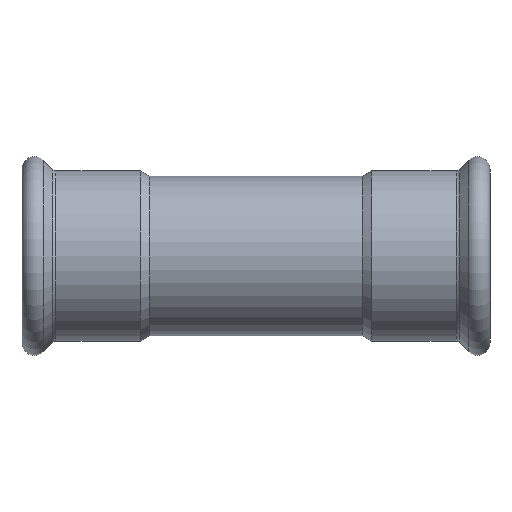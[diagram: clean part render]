
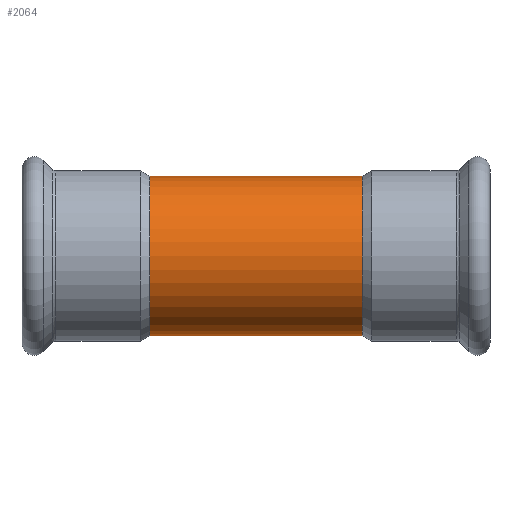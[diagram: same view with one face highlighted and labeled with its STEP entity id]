
A CAD part, front view. The second image highlights one B-rep face of the part: STEP entity #2064.
In plain terms, the highlighted cylindrical face has radius 32 mm (diameter 64 mm), a full revolution.
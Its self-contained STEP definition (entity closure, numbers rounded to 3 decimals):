
#1859=CARTESIAN_POINT('',(0.,23.567,21.647));
#1860=VERTEX_POINT('',#1859);
#1941=CARTESIAN_POINT('',(0.,23.567,21.647));
#1942=CARTESIAN_POINT('',(0.666,23.567,21.647));
#1943=CARTESIAN_POINT('',(1.555,23.601,21.611));
#1944=CARTESIAN_POINT('',(3.318,23.754,21.442));
#1945=CARTESIAN_POINT('',(5.271,24.045,21.119));
#1946=CARTESIAN_POINT('',(7.15,24.495,20.595));
#1947=CARTESIAN_POINT('',(8.751,24.956,20.032));
#1948=CARTESIAN_POINT('',(11.086,25.72,19.068));
#1949=CARTESIAN_POINT('',(13.405,26.705,17.682));
#1950=CARTESIAN_POINT('',(15.315,27.622,16.164));
#1951=CARTESIAN_POINT('',(16.521,28.228,15.096));
#1952=CARTESIAN_POINT('',(17.923,28.974,13.635));
#1953=CARTESIAN_POINT('',(19.078,29.625,12.129));
#1954=CARTESIAN_POINT('',(19.967,30.141,10.767));
#1955=CARTESIAN_POINT('',(20.642,30.541,9.592));
#1956=CARTESIAN_POINT('',(21.586,31.112,7.613));
#1957=CARTESIAN_POINT('',(22.299,31.556,5.504));
#1958=CARTESIAN_POINT('',(22.721,31.823,3.467));
#1959=CARTESIAN_POINT('',(22.869,31.917,2.362));
#1960=CARTESIAN_POINT('',(23.023,32.015,0.697));
#1961=CARTESIAN_POINT('',(23.022,32.014,-1.686));
#1962=CARTESIAN_POINT('',(22.519,31.694,-4.714));
#1963=CARTESIAN_POINT('',(21.851,31.278,-6.828));
#1964=CARTESIAN_POINT('',(21.229,30.896,-8.362));
#1965=CARTESIAN_POINT('',(20.638,30.538,-9.601));
#1966=CARTESIAN_POINT('',(19.556,29.898,-11.481));
#1967=CARTESIAN_POINT('',(17.944,28.978,-13.666));
#1968=CARTESIAN_POINT('',(15.928,27.915,-15.687));
#1969=CARTESIAN_POINT('',(14.234,27.101,-17.028));
#1970=CARTESIAN_POINT('',(12.44,26.299,-18.253));
#1971=CARTESIAN_POINT('',(10.132,25.377,-19.52));
#1972=CARTESIAN_POINT('',(7.627,24.605,-20.466));
#1973=CARTESIAN_POINT('',(5.396,24.091,-21.065));
#1974=CARTESIAN_POINT('',(3.103,23.697,-21.507));
#1975=CARTESIAN_POINT('',(-0.009,23.486,-21.734));
#1976=CARTESIAN_POINT('',(-3.267,23.709,-21.494));
#1977=CARTESIAN_POINT('',(-5.556,24.123,-21.029));
#1978=CARTESIAN_POINT('',(-7.774,24.65,-20.411));
#1979=CARTESIAN_POINT('',(-10.147,25.382,-19.513));
#1980=CARTESIAN_POINT('',(-12.459,26.307,-18.242));
#1981=CARTESIAN_POINT('',(-13.811,26.912,-17.316));
#1982=CARTESIAN_POINT('',(-14.687,27.319,-16.67));
#1983=CARTESIAN_POINT('',(-15.629,27.775,-15.907));
#1984=CARTESIAN_POINT('',(-17.202,28.581,-14.436));
#1985=CARTESIAN_POINT('',(-18.617,29.36,-12.79));
#1986=CARTESIAN_POINT('',(-19.935,30.12,-10.85));
#1987=CARTESIAN_POINT('',(-21.261,30.91,-8.476));
#1988=CARTESIAN_POINT('',(-22.226,31.511,-5.861));
#1989=CARTESIAN_POINT('',(-22.75,31.841,-3.326));
#1990=CARTESIAN_POINT('',(-23.024,32.015,-1.109));
#1991=CARTESIAN_POINT('',(-23.022,32.014,1.129));
#1992=CARTESIAN_POINT('',(-22.747,31.839,3.345));
#1993=CARTESIAN_POINT('',(-22.295,31.554,5.517));
#1994=CARTESIAN_POINT('',(-21.4,30.997,8.153));
#1995=CARTESIAN_POINT('',(-19.878,30.081,11.044));
#1996=CARTESIAN_POINT('',(-18.1,29.068,13.453));
#1997=CARTESIAN_POINT('',(-16.222,28.068,15.406));
#1998=CARTESIAN_POINT('',(-13.745,26.849,17.479));
#1999=CARTESIAN_POINT('',(-10.899,25.641,19.179));
#2000=CARTESIAN_POINT('',(-7.767,24.643,20.423));
#2001=CARTESIAN_POINT('',(-5.272,24.045,21.119));
#2002=CARTESIAN_POINT('',(-2.668,23.657,21.549));
#2003=CARTESIAN_POINT('',(-0.889,23.567,21.647));
#2004=CARTESIAN_POINT('',(0.,23.567,21.647));
#2005=CARTESIAN_POINT('',(0.,23.567,21.647));
#2006=CARTESIAN_POINT('',(0.,23.567,21.647));
#2007=CARTESIAN_POINT('',(0.,23.567,21.647));
#2008=B_SPLINE_CURVE_WITH_KNOTS('',3,(#1941,#1942,#1943,#1944,#1945,#1946,#1947,#1948,#1949,#1950,#1951,#1952,#1953,#1954,#1955,#1956,#1957,#1958,#1959,#1960,#1961,#1962,#1963,#1964,#1965,#1966,#1967,#1968,#1969,#1970,#1971,#1972,#1973,#1974,#1975,#1976,#1977,#1978,#1979,#1980,#1981,#1982,#1983,#1984,#1985,#1986,#1987,#1988,#1989,#1990,#1991,#1992,#1993,#1994,#1995,#1996,#1997,#1998,#1999,#2000,#2001,#2002,#2003,#2004,#2005,#2006,#2007),.UNSPECIFIED.,.T.,.U.,(4,1,1,1,1,1,1,1,1,1,1,1,1,1,1,1,1,1,1,1,1,1,1,1,1,1,1,1,1,1,1,1,1,1,1,1,1,1,1,1,1,1,1,1,1,1,1,1,1,1,1,1,1,1,1,1,1,1,1,1,1,3,4),(-13.161,-12.985,-12.926,-12.691,-12.456,-12.398,-12.221,-11.751,-11.634,-11.516,-11.281,-11.046,-10.968,-10.811,-10.654,-10.341,-10.184,-10.067,-10.028,-9.714,-9.401,-9.166,-9.088,-8.931,-8.774,-8.461,-8.148,-7.952,-7.834,-7.521,-7.207,-7.09,-6.894,-6.581,-6.267,-6.032,-5.954,-5.641,-5.327,-5.21,-5.171,-5.014,-4.857,-4.544,-4.387,-4.178,-3.76,-3.604,-3.447,-3.134,-2.977,-2.82,-2.507,-2.194,-1.88,-1.645,-1.41,-0.94,-0.705,-0.47,-0.235,0.0,0.),.UNSPECIFIED.);
#2009=EDGE_CURVE('',#1860,#1860,#2008,.T.);
#2034=CARTESIAN_POINT('',(0.,0.,0.0));
#2035=DIRECTION('',(1.0,0.,0.0));
#2036=DIRECTION('',(0.0,1.0,0.0));
#2037=AXIS2_PLACEMENT_3D('',#2034,#2035,#2036);
#2038=CYLINDRICAL_SURFACE('',#2037,32.);
#2039=CARTESIAN_POINT('',(-42.654,32.,0.0));
#2040=VERTEX_POINT('',#2039);
#2041=CARTESIAN_POINT('',(-42.654,0.,0.0));
#2042=DIRECTION('',(1.0,0.0,0.0));
#2043=DIRECTION('',(0.0,1.0,0.0));
#2044=AXIS2_PLACEMENT_3D('',#2041,#2042,#2043);
#2045=CIRCLE('',#2044,32.);
#2046=EDGE_CURVE('',#2040,#2040,#2045,.T.);
#2047=ORIENTED_EDGE('',*,*,#2046,.T.);
#2048=EDGE_LOOP('',(#2047));
#2049=FACE_OUTER_BOUND('',#2048,.T.);
#2050=CARTESIAN_POINT('',(42.654,32.,0.0));
#2051=VERTEX_POINT('',#2050);
#2052=CARTESIAN_POINT('',(42.654,0.,0.0));
#2053=DIRECTION('',(1.0,0.0,0.0));
#2054=DIRECTION('',(0.0,1.0,0.0));
#2055=AXIS2_PLACEMENT_3D('',#2052,#2053,#2054);
#2056=CIRCLE('',#2055,32.);
#2057=EDGE_CURVE('',#2051,#2051,#2056,.T.);
#2058=ORIENTED_EDGE('',*,*,#2057,.F.);
#2059=EDGE_LOOP('',(#2058));
#2060=FACE_BOUND('',#2059,.T.);
#2061=ORIENTED_EDGE('',*,*,#2009,.F.);
#2062=EDGE_LOOP('',(#2061));
#2063=FACE_BOUND('',#2062,.T.);
#2064=ADVANCED_FACE('',(#2049,#2060,#2063),#2038,.T.);
